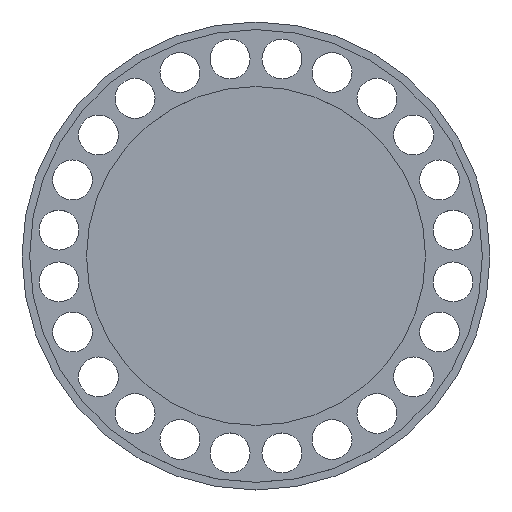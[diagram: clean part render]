
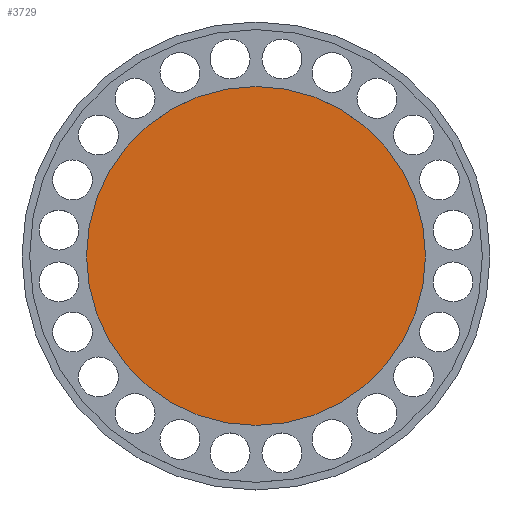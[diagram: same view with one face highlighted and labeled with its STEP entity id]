
A CAD part, top view. The second image highlights one B-rep face of the part: STEP entity #3729.
In plain terms, the highlighted planar face has unit normal (0, 0, 1).
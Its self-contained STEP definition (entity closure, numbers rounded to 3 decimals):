
#3641 = CYLINDRICAL_SURFACE('',#3642,21.);
#3642 = AXIS2_PLACEMENT_3D('',#3643,#3644,#3645);
#3643 = CARTESIAN_POINT('',(0.,0.,0.79)
  );
#3644 = DIRECTION('',(-0.,-0.,-1.));
#3645 = DIRECTION('',(1.,0.,0.));
#3674 = EDGE_CURVE('',#3675,#3675,#3677,.T.);
#3675 = VERTEX_POINT('',#3676);
#3676 = CARTESIAN_POINT('',(21.,0.,0.8));
#3677 = SURFACE_CURVE('',#3678,(#3683,#3690),.PCURVE_S1.);
#3678 = CIRCLE('',#3679,21.);
#3679 = AXIS2_PLACEMENT_3D('',#3680,#3681,#3682);
#3680 = CARTESIAN_POINT('',(0.,0.,0.8));
#3681 = DIRECTION('',(0.,0.,-1.));
#3682 = DIRECTION('',(1.,0.,0.));
#3683 = PCURVE('',#3641,#3684);
#3684 = DEFINITIONAL_REPRESENTATION('',(#3685),#3689);
#3685 = LINE('',#3686,#3687);
#3686 = CARTESIAN_POINT('',(-6.283,-0.01));
#3687 = VECTOR('',#3688,1.);
#3688 = DIRECTION('',(1.,-0.));
#3689 = ( GEOMETRIC_REPRESENTATION_CONTEXT(2) 
PARAMETRIC_REPRESENTATION_CONTEXT() REPRESENTATION_CONTEXT('2D SPACE',''
  ) );
#3690 = PCURVE('',#3691,#3696);
#3691 = PLANE('',#3692);
#3692 = AXIS2_PLACEMENT_3D('',#3693,#3694,#3695);
#3693 = CARTESIAN_POINT('',(0.,0.,0.8)
  );
#3694 = DIRECTION('',(0.,0.,1.));
#3695 = DIRECTION('',(1.,0.,-0.));
#3696 = DEFINITIONAL_REPRESENTATION('',(#3697),#3705);
#3697 = ( BOUNDED_CURVE() B_SPLINE_CURVE(2,(#3698,#3699,#3700,#3701,
#3702,#3703,#3704),.UNSPECIFIED.,.T.,.F.) B_SPLINE_CURVE_WITH_KNOTS((1,2
    ,2,2,2,1),(-2.094,0.,2.094,4.189,
6.283,8.378),.UNSPECIFIED.) CURVE() 
GEOMETRIC_REPRESENTATION_ITEM() RATIONAL_B_SPLINE_CURVE((1.,0.5,1.,0.5,
1.,0.5,1.)) REPRESENTATION_ITEM('') );
#3698 = CARTESIAN_POINT('',(21.,0.));
#3699 = CARTESIAN_POINT('',(21.,-36.373));
#3700 = CARTESIAN_POINT('',(-10.5,-18.187));
#3701 = CARTESIAN_POINT('',(-42.,0.));
#3702 = CARTESIAN_POINT('',(-10.5,18.187));
#3703 = CARTESIAN_POINT('',(21.,36.373));
#3704 = CARTESIAN_POINT('',(21.,0.));
#3705 = ( GEOMETRIC_REPRESENTATION_CONTEXT(2) 
PARAMETRIC_REPRESENTATION_CONTEXT() REPRESENTATION_CONTEXT('2D SPACE',''
  ) );
#3729 = ADVANCED_FACE('',(#3730),#3691,.T.);
#3730 = FACE_BOUND('',#3731,.T.);
#3731 = EDGE_LOOP('',(#3732));
#3732 = ORIENTED_EDGE('',*,*,#3674,.F.);
